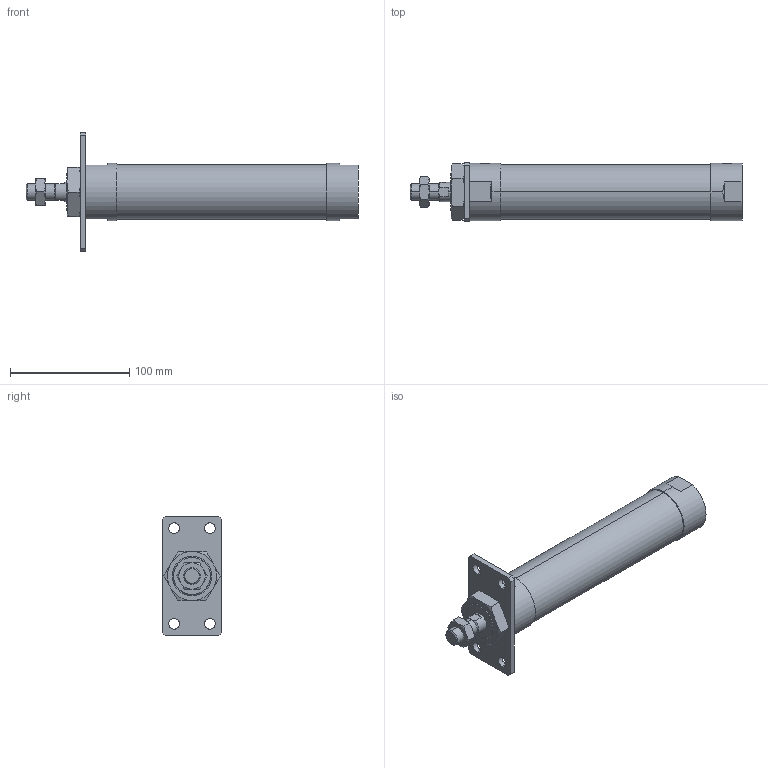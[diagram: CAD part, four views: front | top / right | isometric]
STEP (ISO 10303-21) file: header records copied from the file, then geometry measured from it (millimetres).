
FILE_DESCRIPTION (( 'STEP AP203' ), '1' );
FILE_NAME ('JGND2-40-125-A.STEP', '2016-08-04T03:11:24', ( '' ), ( '' ), 'SwSTEP 2.0', 'SolidWorks 2014', '' );
FILE_SCHEMA (( 'CONFIG_CONTROL_DESIGN' ));
Length unit declared in the file: millimetre
Products named in the file (5): J#2-40-125(P); JGND2-40-125-A; J#2-40-A
Assembly tree (4 placements, depth 2):
  JGND2-40-125-A
    J#2-40-125(P)
    (unnamed)
    (unnamed)
    J#2-40-A
Bounding box: 278 x 50 x 100 mm (x, y, z)
Volume: 429372.8 mm3; surface area: 56958.2 mm2
Topology: 4 solids, 4 shells, 109 faces, 254 edges, 155 vertices
Faces by surface type: plane 42, cylinder 30, torus 24, cone 13
Entity records: 4068 total; most frequent: CARTESIAN_POINT 1112, DIRECTION 511, ORIENTED_EDGE 500, EDGE_CURVE 250, AXIS2_PLACEMENT_3D 208, VERTEX_POINT 155, EDGE_LOOP 129, ADVANCED_FACE 109
